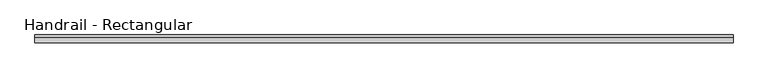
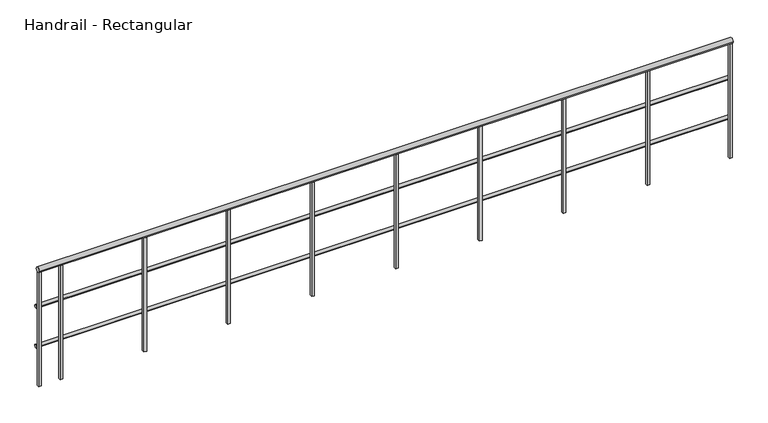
"""IFC4 building model written with IfcOpenShell, lengths in millimetres: railing geometry, Handrail - Rectangular."""

from ifc_helpers import new_model, si_unit, point, frame, frame_2d, origin, place, context, project, spatial, polyline, circle_curve, trimmed, segment, composite_curve, outline, extrude, source, transform, mapped, element, save


def handrail_rectangular_87f704f7(model_context):
    return source(origin(), model_context, "Body", "SweptSolid", [
        extrude(outline(composite_curve([segment(trimmed(circle_curve(frame_2d((11970.2316867, 3644.9)), 12.7), [point((11982.9316867, 3644.9))], [point((11957.5316867, 3644.9))], False, "CARTESIAN"), True, "CONTINUOUS"), segment(trimmed(circle_curve(frame_2d((11970.2316867, 3644.9)), 12.7), [point((11957.5316867, 3644.9))], [point((11982.9316867, 3644.9))], False, "CARTESIAN"), True, "CONTINUOUS")], self_intersect=False)), frame((-23747.3839563, 0.0, 0.0), z_axis=(1.0, 0.0, 0.0), x_axis=(0.0, 1.0, 0.0)), (0.0, 0.0, 1.0), 5041.9),
        extrude(outline(composite_curve([segment(trimmed(circle_curve(frame_2d((11970.2316867, 3340.1)), 12.7), [point((11982.9316867, 3340.1))], [point((11957.5316867, 3340.1))], False, "CARTESIAN"), True, "CONTINUOUS"), segment(trimmed(circle_curve(frame_2d((11970.2316867, 3340.1)), 12.7), [point((11957.5316867, 3340.1))], [point((11982.9316867, 3340.1))], False, "CARTESIAN"), True, "CONTINUOUS")], self_intersect=False)), frame((-23747.3839563, 0.0, 0.0), z_axis=(1.0, 0.0, 0.0), x_axis=(0.0, 1.0, 0.0)), (0.0, 0.0, 1.0), 5041.9),
        extrude(outline(composite_curve([segment(trimmed(circle_curve(frame_2d((11944.8316867, 3943.35)), 19.05), [point((11963.8816867, 3943.35))], [point((11925.7816867, 3943.35))], False, "CARTESIAN"), True, "CONTINUOUS"), segment(trimmed(circle_curve(frame_2d((11944.8316867, 3943.35)), 19.05), [point((11925.7816867, 3943.35))], [point((11963.8816867, 3943.35))], False, "CARTESIAN"), True, "CONTINUOUS")], self_intersect=False)), frame((-23747.3839563, 0.0, 0.0), z_axis=(1.0, 0.0, 0.0), x_axis=(0.0, 1.0, 0.0)), (0.0, 0.0, 1.0), 5041.9),
        extrude(outline(polyline([(-23572.7589563, 11935.3066867), (-23591.8089563, 11935.3066867), (-23591.8089563, 11954.3566867), (-23572.7589563, 11954.3566867), (-23572.7589563, 11935.3066867)])), frame((0.0, 0.0, 3048.0), z_axis=(0.0, 0.0, 1.0), x_axis=(1.0, 0.0, 0.0)), (0.0, 0.0, 1.0), 876.3),
        extrude(outline(polyline([(-22963.1589563, 11935.3066867), (-22982.2089563, 11935.3066867), (-22982.2089563, 11954.3566867), (-22963.1589563, 11954.3566867), (-22963.1589563, 11935.3066867)])), frame((0.0, 0.0, 3048.0), z_axis=(0.0, 0.0, 1.0), x_axis=(1.0, 0.0, 0.0)), (0.0, 0.0, 1.0), 876.3),
        extrude(outline(polyline([(-22353.5589563, 11935.3066867), (-22372.6089563, 11935.3066867), (-22372.6089563, 11954.3566867), (-22353.5589563, 11954.3566867), (-22353.5589563, 11935.3066867)])), frame((0.0, 0.0, 3048.0), z_axis=(0.0, 0.0, 1.0), x_axis=(1.0, 0.0, 0.0)), (0.0, 0.0, 1.0), 876.3),
        extrude(outline(polyline([(-21743.9589563, 11935.3066867), (-21763.0089563, 11935.3066867), (-21763.0089563, 11954.3566867), (-21743.9589563, 11954.3566867), (-21743.9589563, 11935.3066867)])), frame((0.0, 0.0, 3048.0), z_axis=(0.0, 0.0, 1.0), x_axis=(1.0, 0.0, 0.0)), (0.0, 0.0, 1.0), 876.3),
        extrude(outline(polyline([(-21134.3589563, 11935.3066867), (-21153.4089563, 11935.3066867), (-21153.4089563, 11954.3566867), (-21134.3589563, 11954.3566867), (-21134.3589563, 11935.3066867)])), frame((0.0, 0.0, 3048.0), z_axis=(0.0, 0.0, 1.0), x_axis=(1.0, 0.0, 0.0)), (0.0, 0.0, 1.0), 876.3),
        extrude(outline(polyline([(-20524.7589563, 11935.3066867), (-20543.8089563, 11935.3066867), (-20543.8089563, 11954.3566867), (-20524.7589563, 11954.3566867), (-20524.7589563, 11935.3066867)])), frame((0.0, 0.0, 3048.0), z_axis=(0.0, 0.0, 1.0), x_axis=(1.0, 0.0, 0.0)), (0.0, 0.0, 1.0), 876.3),
        extrude(outline(polyline([(-19915.1589563, 11935.3066867), (-19934.2089563, 11935.3066867), (-19934.2089563, 11954.3566867), (-19915.1589563, 11954.3566867), (-19915.1589563, 11935.3066867)])), frame((0.0, 0.0, 3048.0), z_axis=(0.0, 0.0, 1.0), x_axis=(1.0, 0.0, 0.0)), (0.0, 0.0, 1.0), 876.3),
        extrude(outline(polyline([(-19305.5589563, 11935.3066867), (-19324.6089563, 11935.3066867), (-19324.6089563, 11954.3566867), (-19305.5589563, 11954.3566867), (-19305.5589563, 11935.3066867)])), frame((0.0, 0.0, 3048.0), z_axis=(0.0, 0.0, 1.0), x_axis=(1.0, 0.0, 0.0)), (0.0, 0.0, 1.0), 876.3),
        extrude(outline(polyline([(-23728.3339563, 11935.3066867), (-23747.3839563, 11935.3066867), (-23747.3839563, 11954.3566867), (-23728.3339563, 11954.3566867), (-23728.3339563, 11935.3066867)])), frame((0.0, 0.0, 3048.0), z_axis=(0.0, 0.0, 1.0), x_axis=(1.0, 0.0, 0.0)), (0.0, 0.0, 1.0), 876.3),
        extrude(outline(polyline([(-18705.4839563, 11935.3066867), (-18724.5339563, 11935.3066867), (-18724.5339563, 11954.3566867), (-18705.4839563, 11954.3566867), (-18705.4839563, 11935.3066867)])), frame((0.0, 0.0, 3048.0), z_axis=(0.0, 0.0, 1.0), x_axis=(1.0, 0.0, 0.0)), (0.0, 0.0, 1.0), 876.3),
    ])


if __name__ == "__main__":
    model = new_model("IFC4")
    model_context = context("Model", 3, world=origin())
    ifc_project = project(units=[si_unit("LENGTHUNIT", "METRE", prefix="MILLI")], contexts=[model_context])
    site = spatial("IfcSite", under=ifc_project)
    building = spatial("IfcBuilding", under=site)
    placement = place(None, origin())
    handrail_rectangular_shape = handrail_rectangular_87f704f7(model_context)
    element("IfcRailing", 1, ObjectType="Handrail - Rectangular", at=placement, inside=building, context=model_context, shape_type="MappedRepresentation", body=[
        mapped(handrail_rectangular_shape, transform((0.0, 0.0, 0.0), x_axis=(1.0, 0.0, 0.0), y_axis=(0.0, 1.0, 0.0), z_axis=(0.0, 0.0, 1.0))),
    ])
    save(model, "model.ifc")
